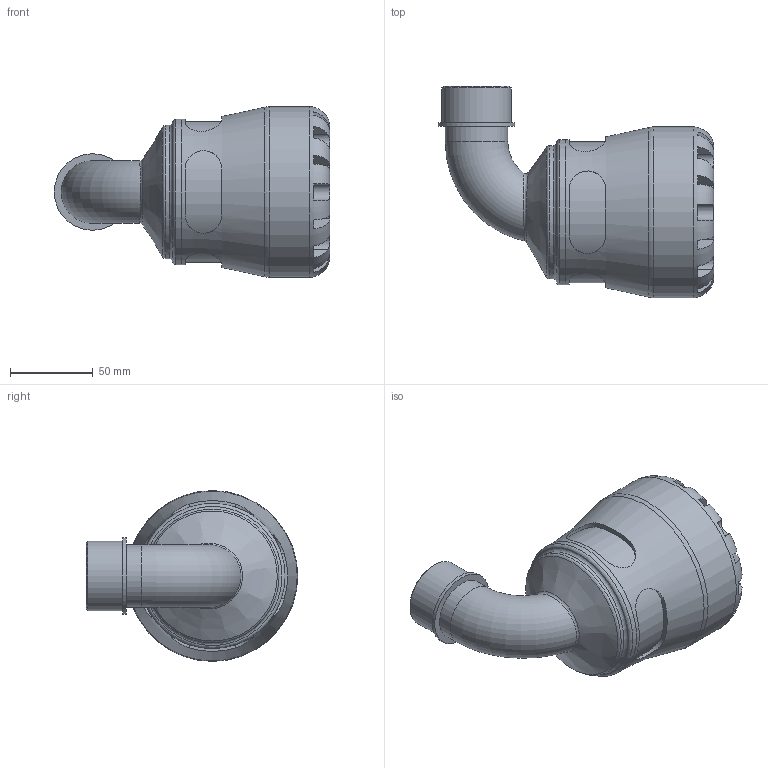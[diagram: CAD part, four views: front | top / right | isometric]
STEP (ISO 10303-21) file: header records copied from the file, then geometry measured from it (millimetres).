
FILE_DESCRIPTION(/* description */ ('PLASSON 90° ELBOW WITH THREADED MALE OFFTAKE 63-1.1/4" SERIES 1'),/* implementation_level */ '2;1');
FILE_NAME(/* name */ 'C:\Dropbox\KIMPROJECTS-Inventor\99-16-3568-Processing\S1\27.01.19\1085\108500063013_198500063013.ipt.stp',/* time_stamp */ '2019-01-27T09:13:42+02:00',/* author */ ('KIM'),/* organization */ (''),/* preprocessor_version */ 'ST-DEVELOPER v15.6',/* originating_system */ 'Autodesk Inventor 2015',/* authorisation */ '');
FILE_SCHEMA (('AUTOMOTIVE_DESIGN { 1 0 10303 214 3 1 1 }'));
Length unit declared in the file: millimetre
Products named in the file (1): 108500063013_198500063013
Bounding box: 166.05 x 127.5 x 103 mm (x, y, z)
Volume: 484448.3 mm3; surface area: 85148.1 mm2
Topology: 1 solids, 1 shells, 110 faces, 269 edges, 167 vertices
Faces by surface type: plane 61, cylinder 37, torus 7, bspline 3, cone 2
Full cylindrical faces by diameter (mm): 29.337 x2, 37.719 x1, 41.91 x1, 46.101 x1, 63 x1, 80.34 x1, 87.55 x1, 103 x1
Entity records: 4376 total; most frequent: CARTESIAN_POINT 1836, ORIENTED_EDGE 488, DIRECTION 487, EDGE_CURVE 244, AXIS2_PLACEMENT_3D 203, VERTEX_POINT 161, EDGE_LOOP 137, STYLED_ITEM 111
